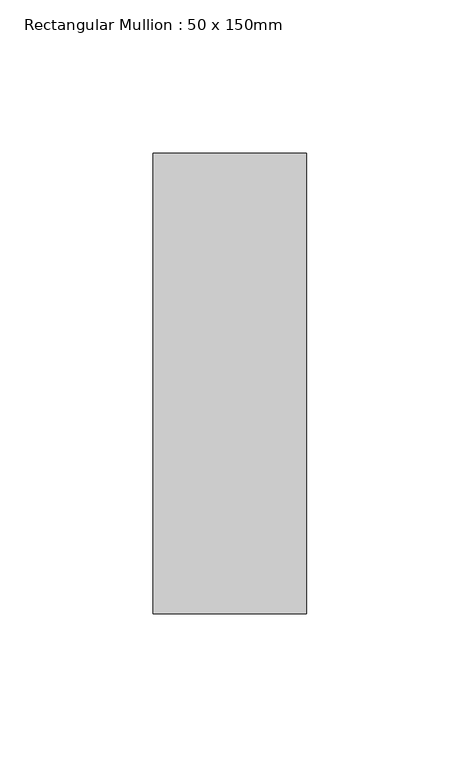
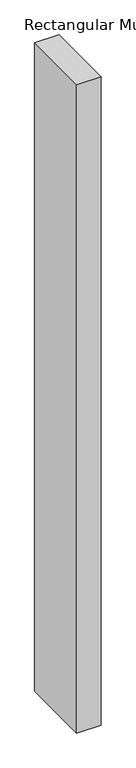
"""IFC4 building model written with IfcOpenShell, lengths in millimetres: member geometry, Rectangular Mullion : 50 x 150mm."""

from ifc_helpers import new_model, si_unit, frame, origin, place, context, project, spatial, polyline, outline, extrude, source, transform, mapped, element, save


def rectangular_mullion_50_x_150mm_2937d9bc(model_context):
    return source(origin(), model_context, "Body", "SweptSolid", [
        extrude(outline(polyline([(25.0, 75.0), (25.0, -75.0), (-25.0, -75.0), (-25.0, 75.0), (25.0, 75.0)])), frame((0.0, 0.0, -1411.1111112), z_axis=(0.0, 0.0, 1.0), x_axis=(1.0, 0.0, 0.0)), (0.0, 0.0, 1.0), 1411.1111112),
    ])


if __name__ == "__main__":
    model = new_model("IFC4")
    model_context = context("Model", 3, world=origin())
    ifc_project = project(units=[si_unit("LENGTHUNIT", "METRE", prefix="MILLI")], contexts=[model_context])
    site = spatial("IfcSite", under=ifc_project)
    building = spatial("IfcBuilding", under=site)
    placement = place(None, origin())
    rectangular_mullion_50_x_150mm_shape = rectangular_mullion_50_x_150mm_2937d9bc(model_context)
    element("IfcMember", 1, ObjectType="Rectangular Mullion : 50 x 150mm", at=placement, inside=building, context=model_context, shape_type="MappedRepresentation", body=[
        mapped(rectangular_mullion_50_x_150mm_shape, transform((0.0, 0.0, 0.0), x_axis=(1.0, 0.0, 0.0), y_axis=(0.0, 1.0, 0.0), z_axis=(0.0, 0.0, 1.0))),
    ])
    save(model, "model.ifc")
